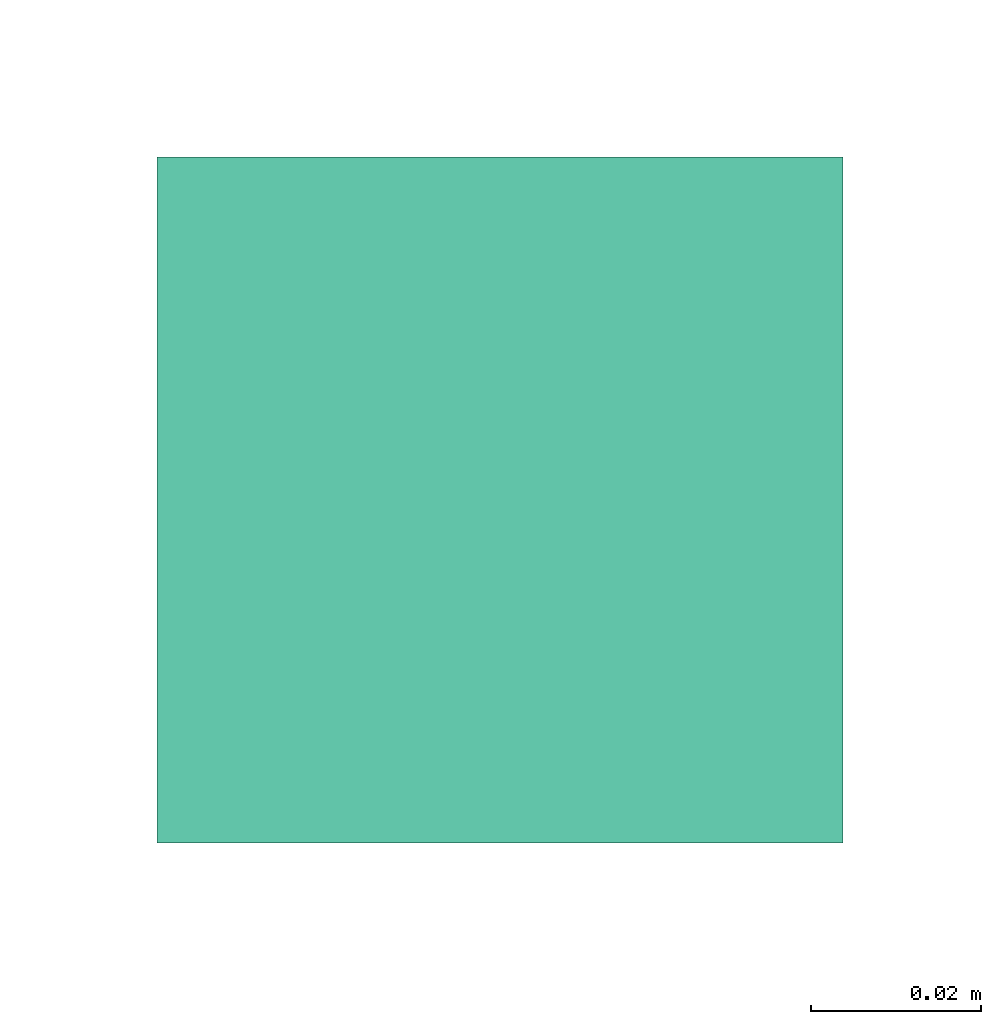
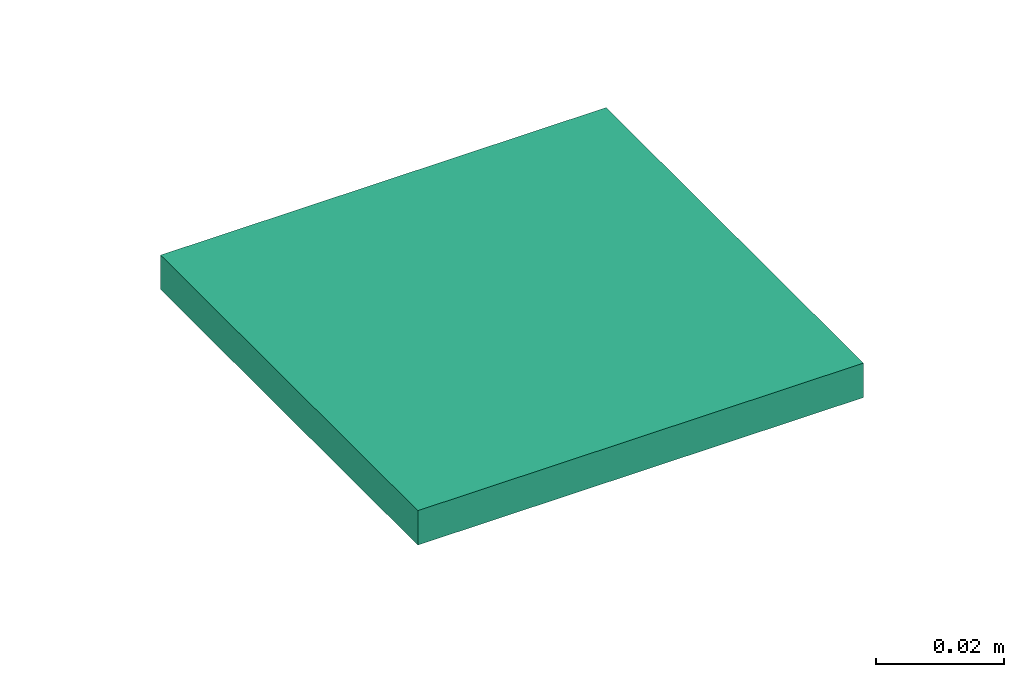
# One storey, part 75 of 153: 1 flow terminal.
"""IFC2X3 building model written with IfcOpenShell, lengths in metres."""

from ifc_helpers import new_model, entity, si_unit, converted_unit, derived_unit, direction, frame, origin, place, context, subcontext, project, spatial, face_set, surface_model, source, transform, mapped, type_object, type_shapes, element, save


model = new_model("IFC2X3")

# Units and contexts
model_context = context("Model", 3, precision=1e-05, world=origin(), true_north=direction((6.12303176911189e-17, 1.0)))
body_context = subcontext(model_context, "Body", "Model", "MODEL_VIEW")
ifc_project = project(units=[si_unit("LENGTHUNIT", "METRE"), si_unit("AREAUNIT", "SQUARE_METRE"), si_unit("VOLUMEUNIT", "CUBIC_METRE"), converted_unit("PLANEANGLEUNIT", "DEGREE", entity("IfcRatioMeasure", 0.0174532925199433), si_unit("PLANEANGLEUNIT", "RADIAN"), dimensions=[0, 0, 0, 0, 0, 0, 0]), si_unit("MASSUNIT", "GRAM", prefix="KILO"), derived_unit("MASSDENSITYUNIT", [(si_unit("MASSUNIT", "GRAM", prefix="KILO"), 1), (si_unit("LENGTHUNIT", "METRE"), -3)]), si_unit("TIMEUNIT", "SECOND"), si_unit("FREQUENCYUNIT", "HERTZ"), si_unit("THERMODYNAMICTEMPERATUREUNIT", "DEGREE_CELSIUS"), derived_unit("THERMALTRANSMITTANCEUNIT", [(si_unit("MASSUNIT", "GRAM", prefix="KILO"), 1), (si_unit("THERMODYNAMICTEMPERATUREUNIT", "KELVIN"), -1), (si_unit("TIMEUNIT", "SECOND"), -3)]), derived_unit("VOLUMETRICFLOWRATEUNIT", [(si_unit("LENGTHUNIT", "METRE"), 3), (si_unit("TIMEUNIT", "SECOND"), -1)]), si_unit("ELECTRICCURRENTUNIT", "AMPERE"), si_unit("ELECTRICVOLTAGEUNIT", "VOLT"), si_unit("POWERUNIT", "WATT"), si_unit("FORCEUNIT", "NEWTON"), si_unit("ILLUMINANCEUNIT", "LUX"), si_unit("LUMINOUSFLUXUNIT", "LUMEN"), si_unit("LUMINOUSINTENSITYUNIT", "CANDELA"), derived_unit("USERDEFINED", [(si_unit("MASSUNIT", "GRAM", prefix="KILO"), -1), (si_unit("LENGTHUNIT", "METRE"), -2), (si_unit("TIMEUNIT", "SECOND"), 3), (si_unit("LUMINOUSFLUXUNIT", "LUMEN"), 1)]), derived_unit("LINEARVELOCITYUNIT", [(si_unit("LENGTHUNIT", "METRE"), 1), (si_unit("TIMEUNIT", "SECOND"), -1)]), si_unit("PRESSUREUNIT", "PASCAL"), derived_unit("USERDEFINED", [(si_unit("LENGTHUNIT", "METRE"), -2), (si_unit("MASSUNIT", "GRAM", prefix="KILO"), 1), (si_unit("TIMEUNIT", "SECOND"), -2)])], contexts=[model_context])

# Site, building, storey
site_placement = place(None, origin())
site = spatial("IfcSite", under=ifc_project, at=site_placement, Name="Default", CompositionType="ELEMENT")
building_placement = place(site_placement, origin())
building = spatial("IfcBuilding", under=site, at=building_placement, CompositionType="ELEMENT")
storey_placement = place(building_placement, frame((0.0, 0.0, -4.62)))
storey = spatial("IfcBuildingStorey", under=building, at=storey_placement, Name="S02", CompositionType="ELEMENT", Elevation=-4.62)

# Flow terminal
electric_appliance_type = type_object("IfcElectricApplianceType", Name="Prise vidéo IP20", PredefinedType="NOTDEFINED")
shared_shape = source(origin(), body_context, "Body", "SurfaceModel", [
    surface_model("IfcFaceBasedSurfaceModel", [(0.0, 0.0, 0.010399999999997), (-0.00149999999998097, 0.0, 0.0103999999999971), (0.0, 0.0014999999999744, 0.0103999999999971), (0.00150000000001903, 0.0, 0.010399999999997), (0.0, -0.0015000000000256, 0.010399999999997), (-0.00090957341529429, 0.0, 0.0111393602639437), (0.00090957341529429, 0.0, 0.0111393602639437), (0.0, 0.000588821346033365, 0.0113031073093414), (0.0, 0.0, 0.0114000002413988), (-0.00125418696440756, 0.0, 0.0107078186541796), (0.000378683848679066, 0.0, 0.0112914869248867), (-0.00695404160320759, 0.0, 0.010399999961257), (-0.007177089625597, 0.00169421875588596, 0.010399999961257), (-0.007177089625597, 0.00169421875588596, 0.0114000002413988), (-0.00695404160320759, 0.0, 0.0114000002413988), (-0.00783103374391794, 0.00327297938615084, 0.010399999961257), (-0.00783103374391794, 0.00327297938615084, 0.0114000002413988), (-0.00887130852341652, 0.00462869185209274, 0.010399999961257), (-0.0102270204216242, 0.00566896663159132, 0.010399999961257), (-0.0102270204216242, 0.00566896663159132, 0.0114000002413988), (-0.00887130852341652, 0.00462869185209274, 0.0114000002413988), (-0.0118057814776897, 0.00632291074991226, 0.010399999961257), (-0.0118057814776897, 0.00632291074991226, 0.0114000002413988), (-0.0135000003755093, 0.00654595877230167, 0.0114000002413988), (-0.0135000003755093, 0.00654595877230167, 0.010399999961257), (-0.0151942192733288, 0.00632291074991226, 0.010399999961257), (-0.0151942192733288, 0.00632291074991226, 0.0114000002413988), (-0.0167729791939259, 0.00566896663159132, 0.010399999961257), (-0.0167729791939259, 0.00566896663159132, 0.0114000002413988), (-0.018128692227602, 0.00462869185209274, 0.010399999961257), (-0.0191689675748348, 0.00327297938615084, 0.010399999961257), (-0.0191689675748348, 0.00327297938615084, 0.0114000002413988), (-0.018128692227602, 0.00462869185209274, 0.0114000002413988), (-0.0198229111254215, 0.00169421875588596, 0.010399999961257), (-0.0198229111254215, 0.00169421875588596, 0.0114000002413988), (-0.0200459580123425, 0.0, 0.0114000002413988), (-0.0200459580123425, 0.0, 0.010399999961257), (-0.0198229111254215, -0.00169421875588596, 0.010399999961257), (-0.0198229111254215, -0.00169421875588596, 0.0114000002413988), (-0.0191689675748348, -0.00327297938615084, 0.010399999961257), (-0.0191689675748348, -0.00327297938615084, 0.0114000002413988), (-0.018128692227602, -0.00462869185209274, 0.010399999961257), (-0.0167729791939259, -0.00566896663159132, 0.010399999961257), (-0.0167729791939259, -0.00566896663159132, 0.0114000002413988), (-0.018128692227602, -0.00462869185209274, 0.0114000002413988), (-0.0151942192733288, -0.00632291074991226, 0.010399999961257), (-0.0151942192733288, -0.00632291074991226, 0.0114000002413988), (-0.0135000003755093, -0.00654595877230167, 0.0114000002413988), (-0.0135000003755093, -0.00654595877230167, 0.010399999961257), (-0.0118057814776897, -0.00632291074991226, 0.010399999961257), (-0.0118057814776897, -0.00632291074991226, 0.0114000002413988), (-0.0102270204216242, -0.00566896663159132, 0.010399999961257), (-0.0102270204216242, -0.00566896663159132, 0.0114000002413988), (-0.00887130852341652, -0.00462869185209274, 0.010399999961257), (-0.00783103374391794, -0.00327297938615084, 0.010399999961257), (-0.00783103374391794, -0.00327297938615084, 0.0114000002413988), (-0.00887130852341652, -0.00462869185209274, 0.0114000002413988), (-0.007177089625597, -0.00169421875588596, 0.010399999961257), (-0.007177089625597, -0.00169421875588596, 0.0114000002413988), (-0.00749999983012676, 0.0, 0.010399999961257), (-0.00749999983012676, 0.0, 0.0114000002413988), (-0.00770444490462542, -0.00155291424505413, 0.0114000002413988), (-0.00770444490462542, -0.00155291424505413, 0.010399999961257), (-0.00830384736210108, -0.00299999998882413, 0.0114000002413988), (-0.00830384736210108, -0.00299999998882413, 0.010399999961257), (-0.0092573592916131, -0.00424264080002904, 0.010399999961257), (-0.0092573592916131, -0.00424264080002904, 0.0114000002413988), (-0.0104999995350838, -0.00519615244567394, 0.0114000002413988), (-0.0104999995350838, -0.00519615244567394, 0.010399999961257), (-0.0119470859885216, -0.00579555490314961, 0.0114000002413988), (-0.0119470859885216, -0.00579555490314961, 0.010399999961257), (-0.0135000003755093, -0.00599999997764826, 0.0114000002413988), (-0.0135000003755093, -0.00599999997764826, 0.010399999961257), (-0.015052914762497, -0.00579555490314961, 0.0114000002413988), (-0.015052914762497, -0.00579555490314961, 0.010399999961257), (-0.0165000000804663, -0.00519615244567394, 0.0114000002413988), (-0.0165000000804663, -0.00519615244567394, 0.010399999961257), (-0.0177426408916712, -0.00424264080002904, 0.010399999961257), (-0.0177426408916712, -0.00424264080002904, 0.0114000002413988), (-0.0186961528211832, -0.00299999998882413, 0.0114000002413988), (-0.0186961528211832, -0.00299999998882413, 0.010399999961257), (-0.0192955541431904, -0.00155291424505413, 0.0114000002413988), (-0.0192955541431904, -0.00155291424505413, 0.010399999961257), (-0.0194999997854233, 0.0, 0.0114000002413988), (-0.0194999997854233, 0.0, 0.010399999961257), (-0.0192955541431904, 0.00155291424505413, 0.0114000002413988), (-0.0192955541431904, 0.00155291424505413, 0.010399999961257), (-0.0186961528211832, 0.00299999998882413, 0.0114000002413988), (-0.0186961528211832, 0.00299999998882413, 0.010399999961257), (-0.0177426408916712, 0.00424264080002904, 0.010399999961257), (-0.0177426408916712, 0.00424264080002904, 0.0114000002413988), (-0.0165000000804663, 0.00519615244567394, 0.0114000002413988), (-0.0165000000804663, 0.00519615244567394, 0.010399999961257), (-0.015052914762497, 0.00579555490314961, 0.0114000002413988), (-0.015052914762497, 0.00579555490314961, 0.010399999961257), (-0.0135000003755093, 0.00599999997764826, 0.0114000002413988), (-0.0135000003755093, 0.00599999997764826, 0.010399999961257), (-0.0119470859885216, 0.00579555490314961, 0.0114000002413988), (-0.0119470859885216, 0.00579555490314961, 0.010399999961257), (-0.0104999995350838, 0.00519615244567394, 0.0114000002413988), (-0.0104999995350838, 0.00519615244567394, 0.010399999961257), (-0.0092573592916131, 0.00424264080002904, 0.010399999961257), (-0.0092573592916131, 0.00424264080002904, 0.0114000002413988), (-0.00830384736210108, 0.00299999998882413, 0.0114000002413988), (-0.00830384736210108, 0.00299999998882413, 0.010399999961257), (-0.00770444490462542, 0.00155291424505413, 0.0114000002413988), (-0.00770444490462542, 0.00155291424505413, 0.010399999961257), (0.0200459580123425, 0.0, 0.0114000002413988), (0.0200459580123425, 0.0, 0.010399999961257), (0.0198229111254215, 0.00169421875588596, 0.010399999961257), (0.0198229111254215, 0.00169421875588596, 0.0114000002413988), (0.0191689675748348, 0.00327297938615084, 0.010399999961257), (0.0191689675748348, 0.00327297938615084, 0.0114000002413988), (0.018128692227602, 0.00462869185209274, 0.0114000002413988), (0.018128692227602, 0.00462869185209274, 0.010399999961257), (0.0167729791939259, 0.00566896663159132, 0.010399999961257), (0.0167729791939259, 0.00566896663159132, 0.0114000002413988), (0.0151942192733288, 0.00632291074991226, 0.010399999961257), (0.0151942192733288, 0.00632291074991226, 0.0114000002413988), (0.0135000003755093, 0.00654595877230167, 0.010399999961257), (0.0135000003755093, 0.00654595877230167, 0.0114000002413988), (0.0118057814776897, 0.00632291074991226, 0.0114000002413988), (0.0118057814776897, 0.00632291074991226, 0.010399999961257), (0.0102270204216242, 0.00566896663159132, 0.010399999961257), (0.0102270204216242, 0.00566896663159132, 0.0114000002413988), (0.00887130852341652, 0.00462869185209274, 0.010399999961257), (0.00887130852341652, 0.00462869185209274, 0.0114000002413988), (0.00783103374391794, 0.00327297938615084, 0.0114000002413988), (0.00783103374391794, 0.00327297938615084, 0.010399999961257), (0.007177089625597, 0.00169421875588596, 0.010399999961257), (0.007177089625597, 0.00169421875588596, 0.0114000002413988), (0.00695404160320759, 0.0, 0.010399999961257), (0.00695404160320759, 0.0, 0.0114000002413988), (0.007177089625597, -0.00169421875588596, 0.010399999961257), (0.007177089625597, -0.00169421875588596, 0.0114000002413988), (0.00783103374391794, -0.00327297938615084, 0.010399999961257), (0.00783103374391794, -0.00327297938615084, 0.0114000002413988), (0.00887130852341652, -0.00462869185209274, 0.0114000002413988), (0.00887130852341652, -0.00462869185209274, 0.010399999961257), (0.0102270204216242, -0.00566896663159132, 0.010399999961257), (0.0102270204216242, -0.00566896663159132, 0.0114000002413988), (0.0118057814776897, -0.00632291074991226, 0.010399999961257), (0.0118057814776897, -0.00632291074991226, 0.0114000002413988), (0.0135000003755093, -0.00654595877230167, 0.010399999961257), (0.0135000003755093, -0.00654595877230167, 0.0114000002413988), (0.0151942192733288, -0.00632291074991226, 0.0114000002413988), (0.0151942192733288, -0.00632291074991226, 0.010399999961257), (0.0167729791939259, -0.00566896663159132, 0.010399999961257), (0.0167729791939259, -0.00566896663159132, 0.0114000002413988), (0.018128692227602, -0.00462869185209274, 0.010399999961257), (0.018128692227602, -0.00462869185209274, 0.0114000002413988), (0.0191689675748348, -0.00327297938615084, 0.0114000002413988), (0.0191689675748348, -0.00327297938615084, 0.010399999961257), (0.0198229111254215, -0.00169421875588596, 0.010399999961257), (0.0198229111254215, -0.00169421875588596, 0.0114000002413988), (0.0194999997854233, 0.0, 0.010399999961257), (0.0194999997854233, 0.0, 0.0114000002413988), (0.0192955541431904, -0.00155291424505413, 0.0114000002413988), (0.0192955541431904, -0.00155291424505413, 0.010399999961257), (0.0186961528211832, -0.00299999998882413, 0.0114000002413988), (0.0186961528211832, -0.00299999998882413, 0.010399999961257), (0.0177426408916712, -0.00424264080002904, 0.010399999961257), (0.0177426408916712, -0.00424264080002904, 0.0114000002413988), (0.0165000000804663, -0.00519615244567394, 0.0114000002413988), (0.0165000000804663, -0.00519615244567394, 0.010399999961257), (0.015052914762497, -0.00579555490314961, 0.0114000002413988), (0.015052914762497, -0.00579555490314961, 0.010399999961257), (0.0135000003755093, -0.00599999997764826, 0.0114000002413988), (0.0135000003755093, -0.00599999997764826, 0.010399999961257), (0.0119470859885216, -0.00579555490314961, 0.0114000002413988), (0.0119470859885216, -0.00579555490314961, 0.010399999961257), (0.0104999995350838, -0.00519615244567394, 0.0114000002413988), (0.0104999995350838, -0.00519615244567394, 0.010399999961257), (0.0092573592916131, -0.00424264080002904, 0.010399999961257), (0.0092573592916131, -0.00424264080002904, 0.0114000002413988), (0.00830384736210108, -0.00299999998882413, 0.0114000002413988), (0.00830384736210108, -0.00299999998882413, 0.010399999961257), (0.00770444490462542, -0.00155291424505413, 0.0114000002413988), (0.00770444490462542, -0.00155291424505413, 0.010399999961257), (0.00749999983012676, 0.0, 0.0114000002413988), (0.00749999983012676, 0.0, 0.010399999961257), (0.00770444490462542, 0.00155291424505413, 0.0114000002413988), (0.00770444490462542, 0.00155291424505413, 0.010399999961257), (0.00830384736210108, 0.00299999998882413, 0.0114000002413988), (0.00830384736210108, 0.00299999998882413, 0.010399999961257), (0.0092573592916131, 0.00424264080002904, 0.010399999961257), (0.0092573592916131, 0.00424264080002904, 0.0114000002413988), (0.0104999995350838, 0.00519615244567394, 0.0114000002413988), (0.0104999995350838, 0.00519615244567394, 0.010399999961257), (0.0119470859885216, 0.00579555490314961, 0.0114000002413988), (0.0119470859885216, 0.00579555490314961, 0.010399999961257), (0.0135000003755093, 0.00599999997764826, 0.0114000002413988), (0.0135000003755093, 0.00599999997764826, 0.010399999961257), (0.015052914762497, 0.00579555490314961, 0.0114000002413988), (0.015052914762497, 0.00579555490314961, 0.010399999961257), (0.0165000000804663, 0.00519615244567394, 0.0114000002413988), (0.0165000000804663, 0.00519615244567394, 0.010399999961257), (0.0177426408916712, 0.00424264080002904, 0.010399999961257), (0.0177426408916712, 0.00424264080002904, 0.0114000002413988), (0.0186961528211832, 0.00299999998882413, 0.0114000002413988), (0.0186961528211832, 0.00299999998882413, 0.010399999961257), (0.0192955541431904, 0.00155291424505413, 0.0114000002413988), (0.0192955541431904, 0.00155291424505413, 0.010399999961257), (0.0146999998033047, 0.0, 0.0114000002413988), (0.0146999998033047, 0.0, 0.010399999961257), (0.0146591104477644, 0.000310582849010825, 0.010399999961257), (0.0146591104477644, 0.000310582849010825, 0.0114000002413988), (0.0145392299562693, 0.000599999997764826, 0.010399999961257), (0.0145392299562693, 0.000599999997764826, 0.0114000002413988), (0.0143485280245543, 0.000848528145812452, 0.0114000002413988), (0.0143485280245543, 0.000848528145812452, 0.010399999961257), (0.014100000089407, 0.00103923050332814, 0.010399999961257), (0.014100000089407, 0.00103923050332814, 0.0114000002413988), (0.0138105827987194, 0.00115911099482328, 0.010399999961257), (0.0138105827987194, 0.00115911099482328, 0.0114000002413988), (0.0135000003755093, 0.00119999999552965, 0.010399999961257), (0.0135000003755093, 0.00119999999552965, 0.0114000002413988), (0.0131894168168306, 0.00115911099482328, 0.0114000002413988), (0.0131894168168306, 0.00115911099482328, 0.010399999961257), (0.0128999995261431, 0.00103923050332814, 0.010399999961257), (0.0128999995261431, 0.00103923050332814, 0.0114000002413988), (0.0126514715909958, 0.000848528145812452, 0.010399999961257), (0.0126514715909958, 0.000848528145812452, 0.0114000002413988), (0.0124607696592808, 0.000599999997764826, 0.0114000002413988), (0.0124607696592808, 0.000599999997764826, 0.010399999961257), (0.0123408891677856, 0.000310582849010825, 0.010399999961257), (0.0123408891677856, 0.000310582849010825, 0.0114000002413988), (0.0122999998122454, 0.0, 0.010399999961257), (0.0122999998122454, 0.0, 0.0114000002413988), (0.0123408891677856, -0.000310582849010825, 0.010399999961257), (0.0123408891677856, -0.000310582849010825, 0.0114000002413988), (0.0124607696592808, -0.000599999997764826, 0.010399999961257), (0.0124607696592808, -0.000599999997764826, 0.0114000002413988), (0.0126514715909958, -0.000848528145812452, 0.0114000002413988), (0.0126514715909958, -0.000848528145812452, 0.010399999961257), (0.0128999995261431, -0.00103923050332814, 0.010399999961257), (0.0128999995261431, -0.00103923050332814, 0.0114000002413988), (0.0131894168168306, -0.00115911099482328, 0.010399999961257), (0.0131894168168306, -0.00115911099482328, 0.0114000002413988), (0.0135000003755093, -0.00119999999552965, 0.010399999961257), (0.0135000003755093, -0.00119999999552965, 0.0114000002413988), (0.0138105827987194, -0.00115911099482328, 0.0114000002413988), (0.0138105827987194, -0.00115911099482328, 0.010399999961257), (0.014100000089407, -0.00103923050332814, 0.010399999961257), (0.014100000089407, -0.00103923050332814, 0.0114000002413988), (0.0143485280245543, -0.000848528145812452, 0.010399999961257), (0.0143485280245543, -0.000848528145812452, 0.0114000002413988), (0.0145392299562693, -0.000599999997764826, 0.0114000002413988), (0.0145392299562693, -0.000599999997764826, 0.010399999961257), (0.0146591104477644, -0.000310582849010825, 0.010399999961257), (0.0146591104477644, -0.000310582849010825, 0.0114000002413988), (0.0143945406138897, 0.0, 0.010399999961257), (0.0143945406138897, 0.0, 0.0114000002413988), (0.0143640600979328, -0.000231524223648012, 0.0114000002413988), (0.0143640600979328, -0.000231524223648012, 0.010399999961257), (0.0142746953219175, -0.000447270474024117, 0.0114000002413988), (0.0142746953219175, -0.000447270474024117, 0.010399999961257), (0.014132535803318, -0.000632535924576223, 0.010399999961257), (0.014132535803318, -0.000632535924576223, 0.0114000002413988), (0.0139472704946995, -0.000774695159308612, 0.0114000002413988), (0.0139472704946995, -0.000774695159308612, 0.010399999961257), (0.0137315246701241, -0.000864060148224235, 0.0114000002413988), (0.0137315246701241, -0.000864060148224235, 0.010399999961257), (0.0135000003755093, -0.000894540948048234, 0.0114000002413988), (0.0135000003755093, -0.000894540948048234, 0.010399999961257), (0.0132684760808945, -0.000864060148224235, 0.0114000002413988), (0.0132684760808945, -0.000864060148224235, 0.010399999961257), (0.0130527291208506, -0.000774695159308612, 0.0114000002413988), (0.0130527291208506, -0.000774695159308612, 0.010399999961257), (0.012867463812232, -0.000632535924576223, 0.010399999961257), (0.012867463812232, -0.000632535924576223, 0.0114000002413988), (0.0127253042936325, -0.000447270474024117, 0.0114000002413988), (0.0127253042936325, -0.000447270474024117, 0.010399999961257), (0.0126359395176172, -0.000231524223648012, 0.0114000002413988), (0.0126359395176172, -0.000231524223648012, 0.010399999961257), (0.0126054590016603, 0.0, 0.0114000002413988), (0.0126054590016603, 0.0, 0.010399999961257), (0.0126359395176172, 0.000231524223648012, 0.0114000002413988), (0.0126359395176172, 0.000231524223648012, 0.010399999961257), (0.0127253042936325, 0.000447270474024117, 0.0114000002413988), (0.0127253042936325, 0.000447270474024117, 0.010399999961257), (0.012867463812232, 0.000632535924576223, 0.010399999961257), (0.012867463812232, 0.000632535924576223, 0.0114000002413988), (0.0130527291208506, 0.000774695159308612, 0.0114000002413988), (0.0130527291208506, 0.000774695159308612, 0.010399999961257), (0.0132684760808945, 0.000864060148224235, 0.0114000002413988), (0.0132684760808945, 0.000864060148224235, 0.010399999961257), (0.0135000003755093, 0.000894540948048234, 0.0114000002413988), (0.0135000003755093, 0.000894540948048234, 0.010399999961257), (0.0137315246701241, 0.000864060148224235, 0.0114000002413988), (0.0137315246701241, 0.000864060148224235, 0.010399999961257), (0.0139472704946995, 0.000774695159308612, 0.0114000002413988), (0.0139472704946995, 0.000774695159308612, 0.010399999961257), (0.014132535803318, 0.000632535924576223, 0.010399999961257), (0.014132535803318, 0.000632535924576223, 0.0114000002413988), (0.0142746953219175, 0.000447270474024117, 0.0114000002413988), (0.0142746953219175, 0.000447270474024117, 0.010399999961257), (0.0143640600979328, 0.000231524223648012, 0.0114000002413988), (0.0143640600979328, 0.000231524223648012, 0.010399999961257), (0.0146591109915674, 0.000310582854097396, 0.0113999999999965), (0.0126054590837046, 0.0, 0.0113999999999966), (0.0128674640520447, -0.000632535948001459, 0.0113999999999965), (0.0146591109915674, 0.000310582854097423, 0.0103999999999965), (0.0126054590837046, 0.0, 0.0103999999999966), (0.0128674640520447, -0.000632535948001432, 0.0103999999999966), (0.027000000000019, 0.0269999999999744, 0.0103999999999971), (0.027000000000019, -0.0270000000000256, 0.0103999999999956), (-0.026999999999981, -0.0270000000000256, 0.0103999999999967), (-0.026999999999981, 0.0269999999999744, 0.0103999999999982), (-0.0074999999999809, -0.0170000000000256, 0.0103999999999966), (-0.0074999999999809, -0.0220000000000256, 0.0103999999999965), (0.0075000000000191, -0.0220000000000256, 0.0103999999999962), (0.0075000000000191, -0.0170000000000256, 0.0103999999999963), (0.0270000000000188, 0.0269999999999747, 0.0), (0.0270000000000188, -0.0270000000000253, 0.0), (-0.0269999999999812, -0.0270000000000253, 0.0), (-0.0269999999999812, 0.0269999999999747, 0.0), (0.00750000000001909, -0.0170000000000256, 0.00989999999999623), (0.00750000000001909, -0.0220000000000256, 0.00989999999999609), (-0.00749999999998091, -0.0220000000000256, 0.0098999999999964), (-0.00749999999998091, -0.0170000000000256, 0.00989999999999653), (0.040350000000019, 0.0403499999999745, 0.00659999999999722), (0.040350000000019, -0.0403500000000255, 0.00659999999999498), (-0.0403499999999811, -0.0403500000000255, 0.00659999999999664), (-0.0403499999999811, 0.0403499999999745, 0.00659999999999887), (0.027000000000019, 0.0269999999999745, 0.00659999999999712), (-0.0269999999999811, 0.0269999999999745, 0.00659999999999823), (-0.026999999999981, -0.0270000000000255, 0.00659999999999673), (0.027000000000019, -0.0270000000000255, 0.00659999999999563), (0.027000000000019, 0.0269999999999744, 0.0103999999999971), (-0.026999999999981, 0.0269999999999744, 0.0103999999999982), (-0.026999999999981, -0.0270000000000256, 0.0103999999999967), (0.027000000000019, -0.0270000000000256, 0.0103999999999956), (0.040350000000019, 0.0403499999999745, 0.00659999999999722), (0.040350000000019, -0.0403500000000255, 0.00659999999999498), (-0.0403499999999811, -0.0403500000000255, 0.00659999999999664), (-0.0403499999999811, 0.0403499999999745, 0.00659999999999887), (-0.0269999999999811, 0.0269999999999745, 0.00659999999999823), (-0.0269999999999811, -0.0270000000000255, 0.00659999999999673), (0.0270000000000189, -0.0270000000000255, 0.00659999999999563), (0.0270000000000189, 0.0269999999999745, 0.00659999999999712), (0.0403500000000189, 0.0403499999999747, 0.0), (0.0403500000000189, -0.0403500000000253, 0.0), (-0.0403499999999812, -0.0403500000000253, 0.0), (-0.0403499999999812, 0.0403499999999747, 0.0), (0.0270000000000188, 0.0269999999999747, 0.0), (-0.0269999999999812, 0.0269999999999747, 0.0), (-0.0269999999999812, -0.0270000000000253, 0.0), (0.0270000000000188, -0.0270000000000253, 0.0)], [face_set([[[0, 1, 2, 3]], [[0, 3, 4, 1]], [[1, 5, 2]], [[6, 2, 5]], [[7, 8, 6]], [[6, 3, 2]], [[7, 5, 6]], [[8, 7, 5]], [[6, 4, 3]], [[1, 4, 9]], [[6, 9, 4]], [[5, 9, 6, 10]], [[10, 8, 5]]]), face_set([[[11, 12, 13, 14]], [[12, 15, 16, 13]], [[17, 18, 19, 20]], [[15, 17, 20, 16]], [[18, 21, 22, 19]], [[23, 22, 21, 24]], [[24, 25, 26, 23]], [[25, 27, 28, 26]], [[29, 30, 31, 32]], [[27, 29, 32, 28]], [[30, 33, 34, 31]], [[35, 34, 33, 36]], [[36, 37, 38, 35]], [[37, 39, 40, 38]], [[41, 42, 43, 44]], [[39, 41, 44, 40]], [[42, 45, 46, 43]], [[47, 46, 45, 48]], [[48, 49, 50, 47]], [[49, 51, 52, 50]], [[53, 54, 55, 56]], [[51, 53, 56, 52]], [[54, 57, 58, 55]], [[14, 58, 57, 11]], [[59, 60, 61, 62]], [[62, 61, 63, 64]], [[65, 66, 67, 68]], [[64, 63, 66, 65]], [[68, 67, 69, 70]], [[71, 72, 70, 69]], [[72, 71, 73, 74]], [[74, 73, 75, 76]], [[77, 78, 79, 80]], [[76, 75, 78, 77]], [[80, 79, 81, 82]], [[83, 84, 82, 81]], [[84, 83, 85, 86]], [[86, 85, 87, 88]], [[89, 90, 91, 92]], [[88, 87, 90, 89]], [[92, 91, 93, 94]], [[95, 96, 94, 93]], [[96, 95, 97, 98]], [[98, 97, 99, 100]], [[101, 102, 103, 104]], [[100, 99, 102, 101]], [[104, 103, 105, 106]], [[60, 59, 106, 105]], [[35, 34, 31, 32, 28, 26, 23, 22, 19, 20, 16, 13, 14, 58, 55, 56, 52, 50, 47, 46, 43, 44, 40, 38], [83, 81, 79, 78, 75, 73, 71, 69, 67, 66, 63, 61, 60, 105, 103, 102, 99, 97, 95, 93, 91, 90, 87, 85]], [[36, 33, 30, 29, 27, 25, 24, 21, 18, 17, 15, 12, 11, 57, 54, 53, 51, 49, 48, 45, 42, 41, 39, 37], [84, 82, 80, 77, 76, 74, 72, 70, 68, 65, 64, 62, 59, 106, 104, 101, 100, 98, 96, 94, 92, 89, 88, 86]]]), face_set([[[107, 108, 109, 110]], [[110, 109, 111, 112]], [[113, 114, 115, 116]], [[112, 111, 114, 113]], [[116, 115, 117, 118]], [[119, 120, 118, 117]], [[121, 122, 123, 124]], [[124, 123, 125, 126]], [[127, 128, 129, 130]], [[126, 125, 128, 127]], [[130, 129, 131, 132]], [[122, 121, 120, 119]], [[132, 131, 133, 134]], [[134, 133, 135, 136]], [[137, 138, 139, 140]], [[136, 135, 138, 137]], [[140, 139, 141, 142]], [[143, 144, 142, 141]], [[145, 146, 147, 148]], [[148, 147, 149, 150]], [[151, 152, 153, 154]], [[150, 149, 152, 151]], [[154, 153, 108, 107]], [[146, 145, 144, 143]], [[155, 156, 157, 158]], [[158, 157, 159, 160]], [[161, 162, 163, 164]], [[160, 159, 162, 161]], [[164, 163, 165, 166]], [[167, 168, 166, 165]], [[168, 167, 169, 170]], [[170, 169, 171, 172]], [[173, 174, 175, 176]], [[172, 171, 174, 173]], [[176, 175, 177, 178]], [[179, 180, 178, 177]], [[180, 179, 181, 182]], [[182, 181, 183, 184]], [[185, 186, 187, 188]], [[184, 183, 186, 185]], [[188, 187, 189, 190]], [[191, 192, 190, 189]], [[192, 191, 193, 194]], [[194, 193, 195, 196]], [[197, 198, 199, 200]], [[196, 195, 198, 197]], [[200, 199, 201, 202]], [[156, 155, 202, 201]], [[132, 130, 127, 126, 124, 121, 120, 118, 116, 113, 112, 110, 107, 154, 151, 150, 148, 145, 144, 142, 140, 137, 136, 134], [179, 177, 175, 174, 171, 169, 167, 165, 163, 162, 159, 157, 156, 201, 199, 198, 195, 193, 191, 189, 187, 186, 183, 181]], [[131, 129, 128, 125, 123, 122, 119, 117, 115, 114, 111, 109, 108, 153, 152, 149, 147, 146, 143, 141, 139, 138, 135, 133], [180, 178, 176, 173, 172, 170, 168, 166, 164, 161, 160, 158, 155, 202, 200, 197, 196, 194, 192, 190, 188, 185, 184, 182]]]), face_set([[[203, 204, 205, 206]], [[206, 205, 207, 208]], [[209, 210, 211, 212]], [[208, 207, 210, 209]], [[212, 211, 213, 214]], [[215, 216, 214, 213]], [[217, 218, 219, 220]], [[220, 219, 221, 222]], [[223, 224, 225, 226]], [[222, 221, 224, 223]], [[226, 225, 227, 228]], [[218, 217, 216, 215]], [[228, 227, 229, 230]], [[230, 229, 231, 232]], [[233, 234, 235, 236]], [[232, 231, 234, 233]], [[236, 235, 237, 238]], [[239, 240, 238, 237]], [[241, 242, 243, 244]], [[244, 243, 245, 246]], [[247, 248, 249, 250]], [[246, 245, 248, 247]], [[250, 249, 204, 203]], [[242, 241, 240, 239]], [[251, 252, 253, 254]], [[254, 253, 255, 256]], [[257, 258, 259, 260]], [[256, 255, 258, 257]], [[260, 259, 261, 262]], [[263, 264, 262, 261]], [[264, 263, 265, 266]], [[266, 265, 267, 268]], [[269, 270, 271, 272]], [[268, 267, 270, 269]], [[272, 271, 273, 274]], [[275, 276, 274, 273]], [[276, 275, 277, 278]], [[278, 277, 279, 280]], [[281, 282, 283, 284]], [[280, 279, 282, 281]], [[284, 283, 285, 286]], [[287, 288, 286, 285]], [[288, 287, 289, 290]], [[290, 289, 291, 292]], [[293, 294, 295, 296]], [[292, 291, 294, 293]], [[296, 295, 297, 298]], [[252, 251, 298, 297]], [[228, 226, 223, 222, 220, 217, 216, 214, 212, 209, 208, 299, 203, 250, 247, 246, 244, 241, 240, 238, 236, 233, 232, 230], [300, 273, 271, 301, 267, 265, 263, 261, 259, 258, 255, 253, 252, 297, 295, 294, 291, 289, 287, 285, 283, 282, 279, 277]], [[227, 225, 224, 221, 219, 218, 215, 213, 211, 210, 207, 302, 204, 249, 248, 245, 243, 242, 239, 237, 235, 234, 231, 229], [303, 274, 272, 304, 268, 266, 264, 262, 260, 257, 256, 254, 251, 298, 296, 293, 292, 290, 288, 286, 284, 281, 280, 278]]]), face_set([[[305, 306, 307, 308], [309, 310, 311, 312]], [[313, 314, 315, 316]], [[308, 305, 313, 316]], [[307, 308, 316, 315]], [[306, 307, 315, 314]], [[305, 306, 314, 313]], [[317, 318, 319, 320]], [[320, 317, 312, 309]], [[319, 310, 309, 320]], [[318, 311, 310, 319]], [[317, 312, 311, 318]]]), face_set([[[321, 322, 323, 324], [325, 326, 327, 328]], [[321, 329, 330, 324]], [[324, 330, 331, 323]], [[323, 331, 332, 322]], [[322, 332, 329, 321]], [[325, 326, 330, 329]], [[326, 327, 331, 330]], [[327, 328, 332, 331]], [[329, 332, 328, 325]]]), face_set([[[333, 334, 335, 336], [337, 338, 339, 340]], [[341, 342, 343, 344], [345, 346, 347, 348]], [[336, 333, 341, 344]], [[335, 336, 344, 343]], [[334, 335, 343, 342]], [[333, 334, 342, 341]], [[345, 346, 337, 340]], [[346, 347, 338, 337]], [[347, 348, 339, 338]], [[340, 339, 348, 345]]])]),
])
type_shapes(electric_appliance_type, [shared_shape])
flow_terminal_placement = place(building_placement, frame((45.8827436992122, -191.768069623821, 3.95), z_axis=(0.0, 0.0, -1.0), x_axis=(1.0, 0.0, 0.0)))
element("IfcFlowTerminal", 1, at=flow_terminal_placement, inside=storey, type_object=electric_appliance_type, Name="INT_Prise Vidéo IP20/21:Prise vidéo IP20", ObjectType="INT_Prise Vidéo IP20/21:Prise vidéo IP20", context=body_context, shape_type="MappedRepresentation", body=[
    mapped(shared_shape, transform((0.0, 0.0, 0.0), scale=1.0)),
])

save(model, "model.ifc")
